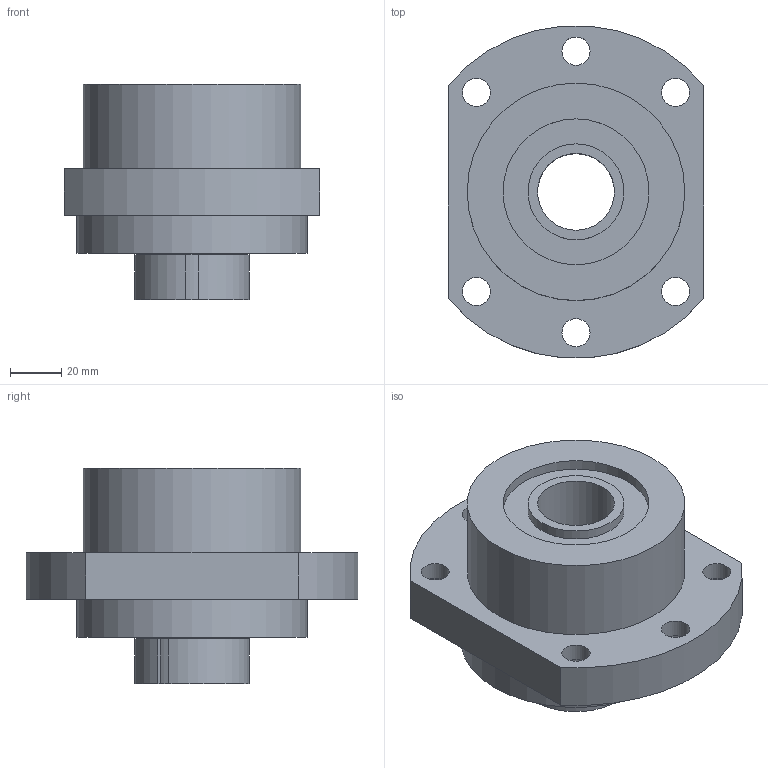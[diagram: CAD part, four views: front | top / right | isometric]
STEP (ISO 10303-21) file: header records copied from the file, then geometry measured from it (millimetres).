
FILE_DESCRIPTION(/* description */ (''),/* implementation_level */ '2;1');
FILE_NAME(/* name */ 'C:\Users\tenki620635\Desktop\官網\圖面\軸承座\3D\setp檔\WBK30 DF.stp',/* time_stamp */ '2020-12-21T10:01:15+08:00',/* author */ ('tenki620635'),/* organization */ (''),/* preprocessor_version */ 'ST-DEVELOPER v15.2',/* originating_system */ 'Autodesk Inventor 2014',/* authorisation */ '');
FILE_SCHEMA (('AUTOMOTIVE_DESIGN { 1 0 10303 214 3 1 1 }'));
Length unit declared in the file: millimetre
Products named in the file (1): WBK30 DF-Atype
Bounding box: 100 x 129.59 x 84 mm (x, y, z)
Volume: 427967 mm3; surface area: 59725.2 mm2
Topology: 1 solids, 1 shells, 52 faces, 108 edges, 72 vertices
Faces by surface type: cylinder 28, plane 24
Full cylindrical faces by diameter (mm): 11 x6, 17.5 x6, 30 x1, 37.5 x2, 40 x1, 57 x2, 85 x1, 90 x1
Entity records: 1357 total; most frequent: DIRECTION 250, CARTESIAN_POINT 213, ORIENTED_EDGE 176, AXIS2_PLACEMENT_3D 109, EDGE_LOOP 100, EDGE_CURVE 88, VERTEX_POINT 72, CIRCLE 56
